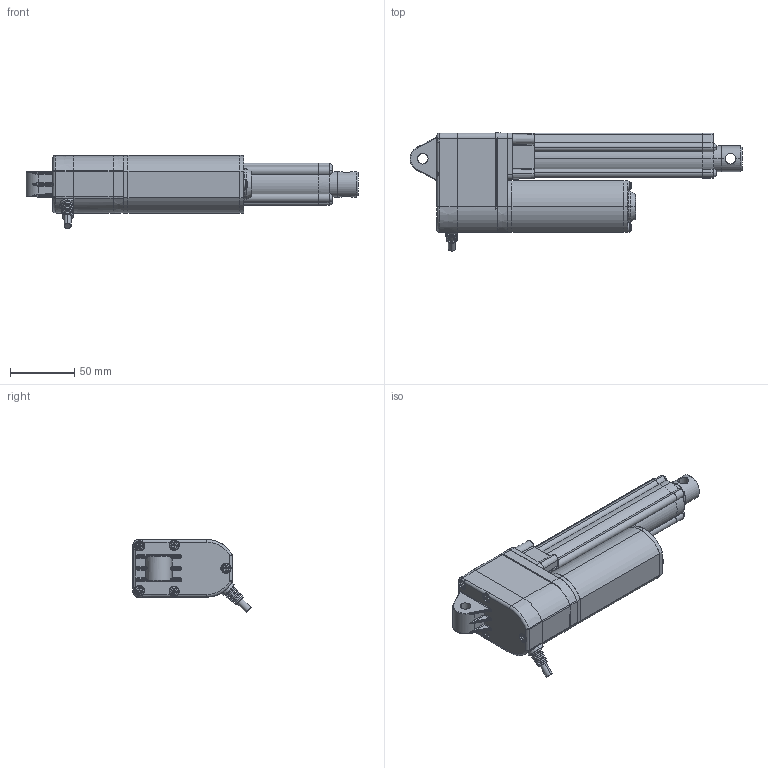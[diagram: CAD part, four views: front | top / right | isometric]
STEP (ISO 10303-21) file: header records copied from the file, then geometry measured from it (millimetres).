
FILE_DESCRIPTION(('STEP AP203'),'1');
FILE_NAME('dj809d1100240d2f011r01111111a01230619195453.stp','2025-06-19T19:54:57',('TraceParts'),('TraceParts S.A.'),'Spatial InterOp 3D',' ',' ');
FILE_SCHEMA(('CONFIG_CONTROL_DESIGN'));
Length unit declared in the file: millimetre
Products named in the file (1): 1
Bounding box: 259.11 x 92.14 x 56.99 mm (x, y, z)
Volume: 500597.3 mm3; surface area: 60585.2 mm2
Topology: 1 solids, 1 shells, 760 faces, 1998 edges, 1246 vertices
Faces by surface type: plane 305, cylinder 202, bspline 121, torus 74, cone 47, sphere 11
Entity records: 29954 total; most frequent: CARTESIAN_POINT 12178, ORIENTED_EDGE 3964, DIRECTION 3476, EDGE_CURVE 1982, AXIS2_PLACEMENT_3D 1323, VERTEX_POINT 1246, LINE 830, VECTOR 830
